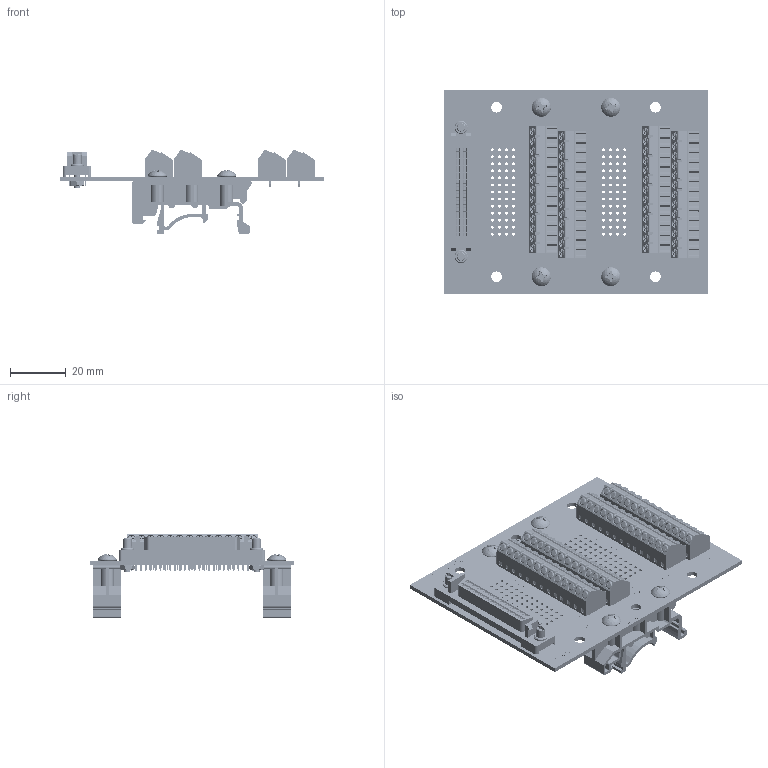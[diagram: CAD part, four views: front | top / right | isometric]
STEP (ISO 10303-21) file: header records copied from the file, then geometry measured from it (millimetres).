
FILE_DESCRIPTION (( 'STEP AP214' ), '1' );
FILE_NAME ('brkbdp50fv1-sb-din_rev_a.step', '2018-03-12T02:36:48', ( '' ), ( '' ), 'SwSTEP 2.0', 'SolidWorks 2017', '' );
FILE_SCHEMA (( 'AUTOMOTIVE_DESIGN' ));
Length unit declared in the file: inch
Products named in the file (9): brkbdp50fv1-sb-din_rev_a; HPDB Female Vertical 50 Pin; Eurostyle PCB Terminal 3; Eurostyle PCB Terminal 2; #2-56 Jackscrew; BRKBDP50FV1-SB Board; #2-56 Nut_91841A003; Screw_SCSMPP-6-0.375_90184A127; dinm01
Assembly tree (32 placements, depth 2):
  brkbdp50fv1-sb-din_rev_a
    BRKBDP50FV1-SB Board
    #2-56 Jackscrew  x2
    #2-56 Nut_91841A003  x2
    dinm01  x2
    Eurostyle PCB Terminal 2  x8
    Eurostyle PCB Terminal 3  x12
    HPDB Female Vertical 50 Pin
    Screw_SCSMPP-6-0.375_90184A127  x4
Bounding box: 95.25 x 73.66 x 30.27 mm (x, y, z)
Volume: 18973.2 mm3; surface area: 42821.3 mm2
Topology: 12 solids, 72 shells, 8897 faces, 23565 edges, 15556 vertices
Faces by surface type: plane 6396, bspline 1523, cylinder 844, cone 126, torus 4, sphere 4
Full cylindrical faces by diameter (mm): 0.4 x40, 0.762 x50, 1.016 x104, 1.041 x52, 1.613 x2, 1.783 x2, 1.9 x52, 1.95 x52, 2.184 x2, 2.337 x2, 2.75 x6, 2.88 x52, 2.95 x52, 3.175 x2, 3.81 x10, 4.699 x2
Entity records: 214969 total; most frequent: CARTESIAN_POINT 89066, ORIENTED_EDGE 20476, DIRECTION 14701, EDGE_CURVE 10244, VECTOR 7161, LINE 7161, VERTEX_POINT 6973, EDGE_LOOP 5103
